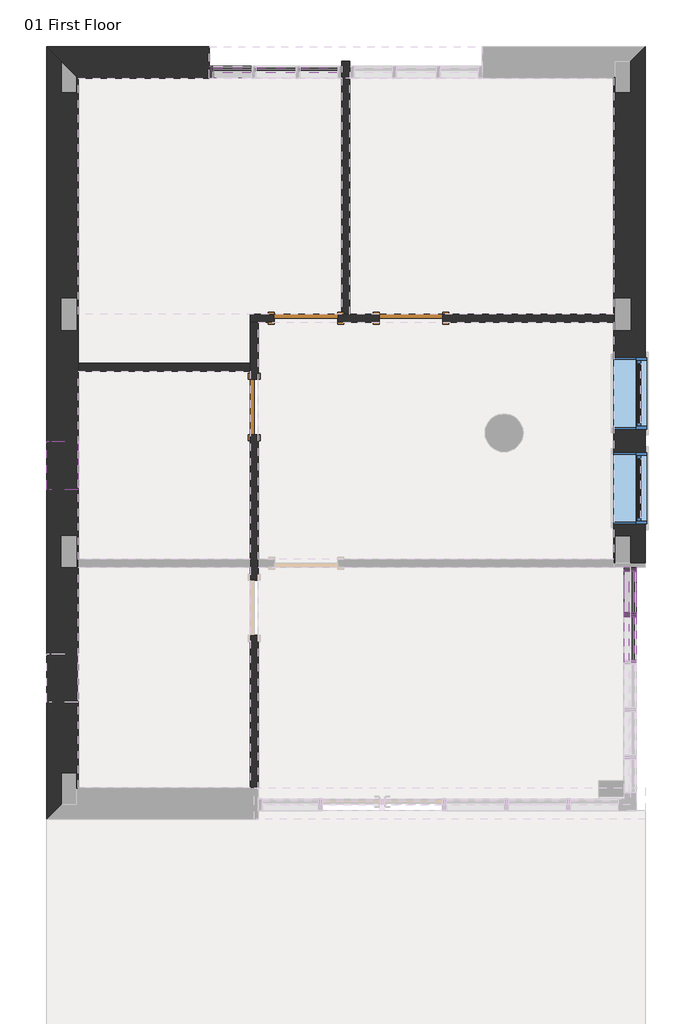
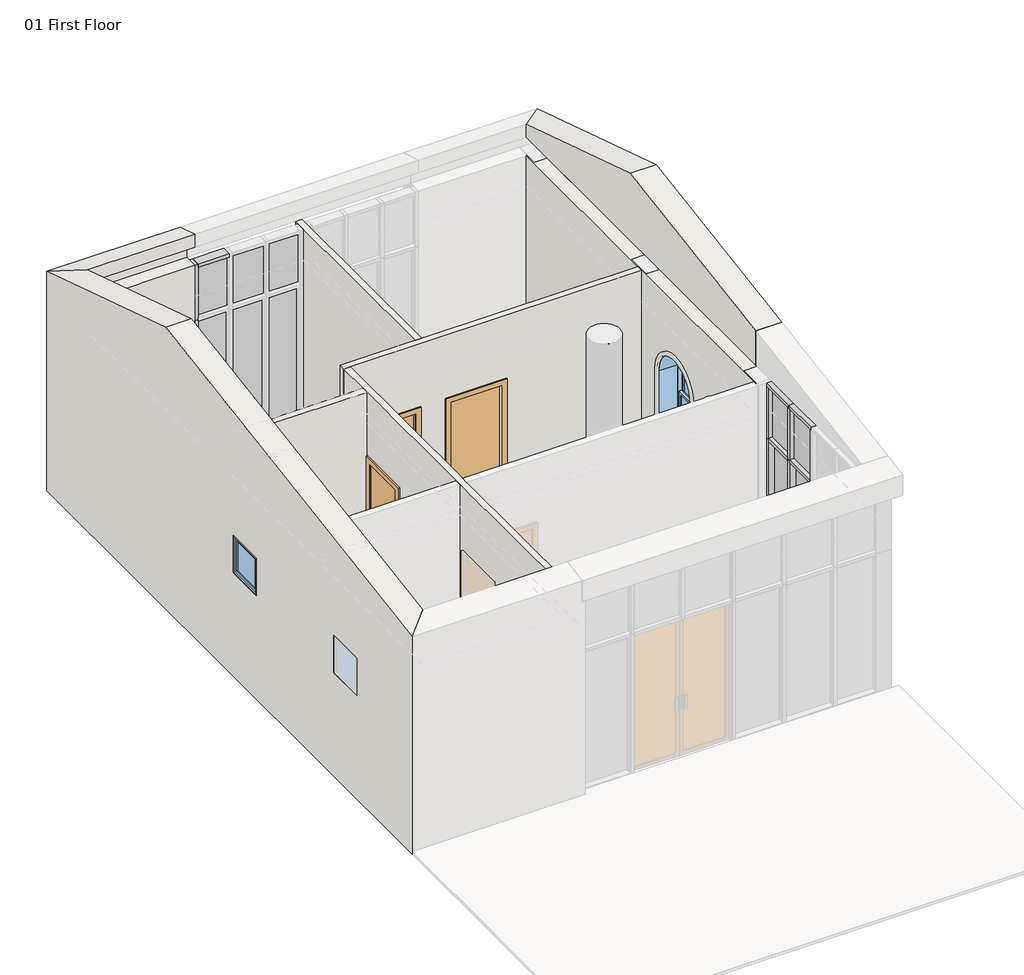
# One storey, part 2 of 3: 13 members, 10 plates, 7 walls, 3 doors, 3 windows.
"""IFC4 building model written with IfcOpenShell, lengths in millimetres."""

from ifc_helpers import new_model, si_unit, frame, origin, place, context, project, spatial, polyline, circle_curve, outline, extrude, faceted_brep, transform, mapped, element, save
from ifc_brep_helpers import plane_surface, revolved_surface, advanced_brep
from components import m_single_flush_0700_x_2100mm_23326b45, m_single_flush_0800_x_2100mm_e1c1bfab, m_single_flush_0800_x_2100mm_5931a049, rectangular_mullion_50_x_150mm_8753ce05, rectangular_mullion_50_x_150mm_f70f74d1, rectangular_mullion_50_x_150mm_f478ca5a, rectangular_mullion_50_x_150mm_324a6438, rectangular_mullion_50_x_150mm_d1e66009, rectangular_mullion_50_x_150mm_35d6a770, rectangular_mullion_50_x_150mm_46eb6b68, rectangular_mullion_50_x_150mm_6f8b8c16, rectangular_mullion_50_x_150mm_754370e9, rectangular_mullion_50_x_150mm_0200b82d, rectangular_mullion_50_x_150mm_8ce7235b, system_panel_glazed_5d80e23d, system_panel_glazed_623b0429, system_panel_glazed_55cc88df, system_panel_glazed_a4bb0f7f, system_panel_solid_e171d4ab, system_panel_solid_d5224606, system_panel_solid_e0b174c6, system_panel_solid_388c8a63, m_fixed_0610_x_0610mm_08517cb4, m_window_double_hung_arch_head_900_x_1800mm_510cd141

model = new_model("IFC4")

# Units and contexts
model_context = context("Model", 3, world=origin())
ifc_project = project(units=[si_unit("LENGTHUNIT", "METRE", prefix="MILLI")], contexts=[model_context])

# Site, building, storey
site = spatial("IfcSite", under=ifc_project)
building = spatial("IfcBuilding", under=site)
storey = spatial("IfcBuildingStorey", under=building, Name="01 First Floor", Elevation=3500.0)

# Doors
placement = place(None, origin())
m_single_flush_0700_x_2100mm_shape = m_single_flush_0700_x_2100mm_23326b45(model_context)
element("IfcDoor", 1, ObjectType="M_Single-Flush : 0700 x 2100mm", at=placement, inside=storey, context=model_context, shape_type="MappedRepresentation", body=[
    mapped(m_single_flush_0700_x_2100mm_shape, transform((-5882.5407999, 1965.8732706, 3500.0), x_axis=(0.0, 1.0, 0.0), y_axis=(-1.0, 0.0, 0.0), z_axis=(0.0, 0.0, 1.0))),
])
m_single_flush_0800_x_2100mm_shape = m_single_flush_0800_x_2100mm_e1c1bfab(model_context)
element("IfcDoor", 2, ObjectType="M_Single-Flush : 0800 x 2100mm", at=placement, inside=storey, context=model_context, shape_type="MappedRepresentation", body=[
    mapped(m_single_flush_0800_x_2100mm_shape, transform((-3898.1036851, 3087.4461437, 3500.0), x_axis=(-0.9999999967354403, -8.080296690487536e-05, 0.0), y_axis=(8.080296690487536e-05, -0.9999999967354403, 0.0), z_axis=(0.0, 0.0, 1.0))),
])
m_single_flush_0800_x_2100mm_2_shape = m_single_flush_0800_x_2100mm_5931a049(model_context)
element("IfcDoor", 3, ObjectType="M_Single-Flush : 0800 x 2100mm", at=placement, inside=storey, context=model_context, shape_type="MappedRepresentation", body=[
    mapped(m_single_flush_0800_x_2100mm_2_shape, transform((-5227.2000094, 3087.3387487, 3500.0), x_axis=(0.9999999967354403, 8.080296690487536e-05, 0.0), y_axis=(-8.080296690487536e-05, 0.9999999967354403, 0.0), z_axis=(0.0, 0.0, 1.0))),
])

# Members
rectangular_mullion_50_x_150mm_shape = rectangular_mullion_50_x_150mm_8753ce05(model_context)
element("IfcMember", 4, ObjectType="Rectangular Mullion : 50 x 150mm", at=placement, inside=storey, context=model_context, shape_type="MappedRepresentation", body=[
    mapped(rectangular_mullion_50_x_150mm_shape, transform((-6447.5407999, 6199.2898352, 5800.0), x_axis=(-1.0, 0.0, 0.0), y_axis=(0.0, -1.0, 0.0), z_axis=(0.0, 0.0, 1.0))),
])
rectangular_mullion_50_x_150mm_2_shape = rectangular_mullion_50_x_150mm_f70f74d1(model_context)
element("IfcMember", 5, ObjectType="Rectangular Mullion : 50 x 150mm", at=placement, inside=storey, context=model_context, shape_type="MappedRepresentation", body=[
    mapped(rectangular_mullion_50_x_150mm_2_shape, transform((-1127.5407999, -662.7101649, 3500.0), x_axis=(0.0, 1.0, 0.0), y_axis=(1.0, 0.0, 0.0), z_axis=(0.0, 0.0, -1.0))),
])
element("IfcMember", 6, ObjectType="Rectangular Mullion : 50 x 150mm", at=placement, inside=storey, context=model_context, shape_type="MappedRepresentation", body=[
    mapped(rectangular_mullion_50_x_150mm_shape, transform((-1127.5407999, -62.7101648, 3500.0), x_axis=(0.0, 1.0, 0.0), y_axis=(1.0, 0.0, 0.0), z_axis=(0.0, 0.0, -1.0))),
])
rectangular_mullion_50_x_150mm_3_shape = rectangular_mullion_50_x_150mm_f478ca5a(model_context)
element("IfcMember", 7, ObjectType="Rectangular Mullion : 50 x 150mm", at=placement, inside=storey, context=model_context, shape_type="MappedRepresentation", body=[
    mapped(rectangular_mullion_50_x_150mm_3_shape, transform((-1127.5407999, -662.7101649, 5800.0), x_axis=(0.0, 1.0, 0.0), y_axis=(1.0, 0.0, 0.0), z_axis=(0.0, 0.0, -1.0))),
])
rectangular_mullion_50_x_150mm_4_shape = rectangular_mullion_50_x_150mm_324a6438(model_context)
element("IfcMember", 8, ObjectType="Rectangular Mullion : 50 x 150mm", at=placement, inside=storey, context=model_context, shape_type="MappedRepresentation", body=[
    mapped(rectangular_mullion_50_x_150mm_4_shape, transform((-1127.5407999, -62.7101648, 5800.0), x_axis=(0.0, 1.0, 0.0), y_axis=(1.0, 0.0, 0.0), z_axis=(0.0, 0.0, -1.0))),
])
rectangular_mullion_50_x_150mm_5_shape = rectangular_mullion_50_x_150mm_d1e66009(model_context)
element("IfcMember", 9, ObjectType="Rectangular Mullion : 50 x 150mm", at=placement, inside=storey, context=model_context, shape_type="MappedRepresentation", body=[
    mapped(rectangular_mullion_50_x_150mm_5_shape, transform((-5914.2074665, 6199.2898352, 6700.0), x_axis=(0.0, 0.0, 1.0), y_axis=(0.0, -1.0, 0.0), z_axis=(1.0, 0.0, 0.0))),
])
element("IfcMember", 10, ObjectType="Rectangular Mullion : 50 x 150mm", at=placement, inside=storey, context=model_context, shape_type="MappedRepresentation", body=[
    mapped(rectangular_mullion_50_x_150mm_5_shape, transform((-6397.5407999, 6199.2898352, 3500.0), x_axis=(0.0, 0.0, -1.0), y_axis=(0.0, -1.0, 0.0), z_axis=(-1.0, 0.0, 0.0))),
])
rectangular_mullion_50_x_150mm_6_shape = rectangular_mullion_50_x_150mm_35d6a770(model_context)
element("IfcMember", 11, ObjectType="Rectangular Mullion : 50 x 150mm", at=placement, inside=storey, context=model_context, shape_type="MappedRepresentation", body=[
    mapped(rectangular_mullion_50_x_150mm_6_shape, transform((-6447.5407999, 6199.2898352, 6700.0), x_axis=(-1.0, 0.0, 0.0), y_axis=(0.0, -1.0, 0.0), z_axis=(0.0, 0.0, 1.0))),
])
rectangular_mullion_50_x_150mm_7_shape = rectangular_mullion_50_x_150mm_46eb6b68(model_context)
element("IfcMember", 12, ObjectType="Rectangular Mullion : 50 x 150mm", at=placement, inside=storey, context=model_context, shape_type="MappedRepresentation", body=[
    mapped(rectangular_mullion_50_x_150mm_7_shape, transform((-1127.5407999, -62.7101648, 6700.0), x_axis=(0.0, 0.0, 1.0), y_axis=(1.0, 0.0, 0.0), z_axis=(0.0, 1.0, 0.0))),
])
rectangular_mullion_50_x_150mm_8_shape = rectangular_mullion_50_x_150mm_6f8b8c16(model_context)
element("IfcMember", 13, ObjectType="Rectangular Mullion : 50 x 150mm", at=placement, inside=storey, context=model_context, shape_type="MappedRepresentation", body=[
    mapped(rectangular_mullion_50_x_150mm_8_shape, transform((-1127.5407999, -662.7101649, 6700.0), x_axis=(0.0, 0.0, 1.0), y_axis=(1.0, 0.0, 0.0), z_axis=(0.0, 1.0, 0.0))),
])
rectangular_mullion_50_x_150mm_9_shape = rectangular_mullion_50_x_150mm_754370e9(model_context)
element("IfcMember", 14, ObjectType="Rectangular Mullion : 50 x 150mm", at=placement, inside=storey, context=model_context, shape_type="MappedRepresentation", body=[
    mapped(rectangular_mullion_50_x_150mm_9_shape, transform((-1127.5407999, -637.7101649, 3500.0), x_axis=(0.0, 0.0, -1.0), y_axis=(1.0, 0.0, 0.0), z_axis=(0.0, -1.0, 0.0))),
])
rectangular_mullion_50_x_150mm_10_shape = rectangular_mullion_50_x_150mm_0200b82d(model_context)
element("IfcMember", 15, ObjectType="Rectangular Mullion : 50 x 150mm", at=placement, inside=storey, context=model_context, shape_type="MappedRepresentation", body=[
    mapped(rectangular_mullion_50_x_150mm_10_shape, transform((-1127.5407999, -687.7101649, 5800.0), x_axis=(0.0, 0.0, 1.0), y_axis=(1.0, 0.0, 0.0), z_axis=(0.0, 1.0, 0.0))),
])
rectangular_mullion_50_x_150mm_11_shape = rectangular_mullion_50_x_150mm_8ce7235b(model_context)
element("IfcMember", 16, ObjectType="Rectangular Mullion : 50 x 150mm", at=placement, inside=storey, context=model_context, shape_type="MappedRepresentation", body=[
    mapped(rectangular_mullion_50_x_150mm_11_shape, transform((-1127.5407999, -112.7101648, 5800.0), x_axis=(0.0, 0.0, 1.0), y_axis=(1.0, 0.0, 0.0), z_axis=(0.0, 1.0, 0.0))),
])

# Plates
system_panel_glazed_shape = system_panel_glazed_5d80e23d(model_context)
element("IfcPlate", 17, ObjectType="System Panel : Glazed", at=placement, inside=storey, context=model_context, shape_type="MappedRepresentation", body=[
    mapped(system_panel_glazed_shape, transform((-6155.8741332, 6199.2898352, 3550.0), x_axis=(1.0, 0.0, 0.0), y_axis=(0.0, 1.0, 0.0), z_axis=(0.0, 0.0, 1.0))),
])
element("IfcPlate", 18, ObjectType="System Panel : Glazed", at=placement, inside=storey, context=model_context, shape_type="MappedRepresentation", body=[
    mapped(system_panel_glazed_shape, transform((-5064.2074667, 6199.2898352, 3550.0), x_axis=(1.0, 0.0, 0.0), y_axis=(0.0, 1.0, 0.0), z_axis=(0.0, 0.0, 1.0))),
])
system_panel_glazed_2_shape = system_panel_glazed_623b0429(model_context)
element("IfcPlate", 19, ObjectType="System Panel : Glazed", at=placement, inside=storey, context=model_context, shape_type="MappedRepresentation", body=[
    mapped(system_panel_glazed_2_shape, transform((-5610.0407999, 6199.2898352, 3550.0), x_axis=(1.0, 0.0, 0.0), y_axis=(0.0, 1.0, 0.0), z_axis=(0.0, 0.0, 1.0))),
])
system_panel_glazed_3_shape = system_panel_glazed_55cc88df(model_context)
element("IfcPlate", 20, ObjectType="System Panel : Glazed", at=placement, inside=storey, context=model_context, shape_type="MappedRepresentation", body=[
    mapped(system_panel_glazed_3_shape, transform((-1127.5407999, -962.7101649, 3550.0), x_axis=(0.0, 1.0, 0.0), y_axis=(-1.0, 0.0, 0.0), z_axis=(0.0, 0.0, 1.0))),
])
system_panel_glazed_4_shape = system_panel_glazed_a4bb0f7f(model_context)
element("IfcPlate", 21, ObjectType="System Panel : Glazed", at=placement, inside=storey, context=model_context, shape_type="MappedRepresentation", body=[
    mapped(system_panel_glazed_4_shape, transform((-1127.5407999, -375.2101649, 3550.0), x_axis=(0.0, 1.0, 0.0), y_axis=(-1.0, 0.0, 0.0), z_axis=(0.0, 0.0, 1.0))),
])
system_panel_solid_shape = system_panel_solid_e171d4ab(model_context)
element("IfcPlate", 22, ObjectType="System Panel : Solid", at=placement, inside=storey, context=model_context, shape_type="MappedRepresentation", body=[
    mapped(system_panel_solid_shape, transform((-6155.8741332, 6199.2898352, 5825.0), x_axis=(1.0, 0.0, 0.0), y_axis=(0.0, 1.0, 0.0), z_axis=(0.0, 0.0, 1.0))),
])
element("IfcPlate", 23, ObjectType="System Panel : Solid", at=placement, inside=storey, context=model_context, shape_type="MappedRepresentation", body=[
    mapped(system_panel_solid_shape, transform((-5064.2074667, 6199.2898352, 5825.0), x_axis=(1.0, 0.0, 0.0), y_axis=(0.0, 1.0, 0.0), z_axis=(0.0, 0.0, 1.0))),
])
system_panel_solid_2_shape = system_panel_solid_d5224606(model_context)
element("IfcPlate", 24, ObjectType="System Panel : Solid", at=placement, inside=storey, context=model_context, shape_type="MappedRepresentation", body=[
    mapped(system_panel_solid_2_shape, transform((-5610.0407999, 6199.2898352, 5825.0), x_axis=(1.0, 0.0, 0.0), y_axis=(0.0, 1.0, 0.0), z_axis=(0.0, 0.0, 1.0))),
])
system_panel_solid_3_shape = system_panel_solid_e0b174c6(model_context)
element("IfcPlate", 25, ObjectType="System Panel : Solid", at=placement, inside=storey, context=model_context, shape_type="MappedRepresentation", body=[
    mapped(system_panel_solid_3_shape, transform((-1127.5407999, -962.7101649, 5825.0), x_axis=(0.0, 1.0, 0.0), y_axis=(-1.0, 0.0, 0.0), z_axis=(0.0, 0.0, 1.0))),
])
system_panel_solid_4_shape = system_panel_solid_388c8a63(model_context)
element("IfcPlate", 26, ObjectType="System Panel : Solid", at=placement, inside=storey, context=model_context, shape_type="MappedRepresentation", body=[
    mapped(system_panel_solid_4_shape, transform((-1127.5407999, -375.2101649, 5825.0), x_axis=(0.0, 1.0, 0.0), y_axis=(-1.0, 0.0, 0.0), z_axis=(0.0, 0.0, 1.0))),
])

# Walls
element("IfcWall", 27, ObjectType="Exterior - Brick on CMU", at=placement, inside=storey, context=model_context, shape_type="Brep", body=[
    faceted_brep([(-8109.5407999, 6124.2898352, 7211.3913043), (-8109.5407999, 3337.2898352, 8100.0), (-8109.5407999, -2849.7101648, 7106.4671533), (-8109.5407999, -2849.7101648, 7000.0), (-8109.5407999, 6124.2898352, 7000.0), (-8109.5407999, -2849.7101648, 3500.0), (-8109.5407999, -62.7101648, 3500.0), (-8109.5407999, 37.2898352, 3500.0), (-8109.5407999, 2415.8732706, 3500.0), (-8109.5407999, 2515.8732706, 3500.0), (-8109.5407999, 6124.2898352, 3500.0), (-8109.5407999, 6124.2898352, 6700.0), (-8109.5407999, 2515.8732706, 6700.0), (-8109.5407999, 2415.8732706, 6700.0), (-8109.5407999, 37.2898352, 6700.0), (-8109.5407999, -62.7101648, 6700.0), (-8109.5407999, -2849.7101648, 6700.0), (-8109.5407999, 921.5815529, 5190.0), (-8109.5407999, 921.5815529, 5800.0), (-8109.5407999, 1531.5815529, 5800.0), (-8109.5407999, 1531.5815529, 5190.0), (-8109.5407999, -1767.7101648, 5190.0), (-8109.5407999, -1767.7101648, 5800.0), (-8109.5407999, -1157.7101648, 5800.0), (-8109.5407999, -1157.7101648, 5190.0), (-8507.5407999, 6522.2898352, 3500.0), (-8507.5407999, -3247.7101648, 3500.0), (-8507.5407999, -3247.7101648, 7042.5547445), (-8507.5407999, 3337.2898352, 8100.0), (-8507.5407999, 6522.2898352, 7084.4927536), (-8507.5407999, 921.5815529, 5800.0), (-8507.5407999, 921.5815529, 5190.0), (-8507.5407999, 1531.5815529, 5190.0), (-8507.5407999, 1531.5815529, 5800.0), (-8507.5407999, -1767.7101648, 5800.0), (-8507.5407999, -1767.7101648, 5190.0), (-8507.5407999, -1157.7101648, 5190.0), (-8507.5407999, -1157.7101648, 5800.0), (-8122.5407999, -2862.7101648, 3500.0), (-8122.5407999, -2662.7101648, 3500.0), (-8322.5407999, -2662.7101648, 3500.0), (-8322.5407999, -3062.7101648, 3500.0), (-8322.5407999, 6337.2898352, 3500.0), (-8322.5407999, 5937.2898352, 3500.0), (-8122.5407999, 5937.2898352, 3500.0), (-8122.5407999, 6137.2898352, 3500.0), (-8322.5407999, 2937.2898352, 3500.0), (-8122.5407999, 2937.2898352, 3500.0), (-8122.5407999, 3337.2898352, 3500.0), (-8322.5407999, 3337.2898352, 3500.0), (-8322.5407999, -62.7101648, 3500.0), (-8122.5407999, -62.7101648, 3500.0), (-8122.5407999, 337.2898352, 3500.0), (-8322.5407999, 337.2898352, 3500.0), (-8322.5407999, -3062.7101648, 7000.0), (-8122.5407999, -2862.7101648, 6700.0), (-8322.5407999, 6337.2898352, 7000.0), (-8122.5407999, 6137.2898352, 6700.0), (-8322.5407999, 2937.2898352, 6700.0), (-8122.5407999, 2937.2898352, 6700.0), (-8322.5407999, -2662.7101648, 6700.0), (-8322.5407999, -62.7101648, 6700.0), (-8322.5407999, 337.2898352, 6700.0), (-8322.5407999, 3337.2898352, 6700.0), (-8322.5407999, 5937.2898352, 6700.0), (-8122.5407999, 3337.2898352, 6700.0), (-8122.5407999, -62.7101648, 6700.0), (-8122.5407999, 337.2898352, 6700.0), (-8122.5407999, -2662.7101648, 6700.0), (-8122.5407999, 5937.2898352, 6700.0)], [[[0, 1, 2, 3, 4]], [[5, 6, 7, 8, 9, 10, 11, 12, 13, 14, 15, 16], [17, 18, 19, 20], [21, 22, 23, 24]], [[25, 26, 27, 28, 29], [30, 31, 32, 33], [34, 35, 36, 37]], [[10, 9, 8, 7, 6, 5, 38, 39, 40, 41, 26, 25, 42, 43, 44, 45], [46, 47, 48, 49], [50, 51, 52, 53]], [[2, 27, 26, 41, 54, 3]], [[38, 5, 16, 55]], [[25, 29, 0, 4, 56, 42]], [[10, 45, 57, 11]], [[47, 46, 58, 59]], [[60, 61, 50, 53, 62, 58, 46, 49, 63, 64, 43, 42, 56, 54, 41, 40]], [[49, 48, 65, 63]], [[54, 56, 4, 3]], [[51, 50, 61, 66]], [[53, 52, 67, 62]], [[40, 39, 68, 60]], [[44, 43, 64, 69]], [[58, 62, 67, 66, 61, 60, 68, 55, 16, 15, 14, 13, 12, 11, 57, 69, 64, 63, 65, 59]], [[27, 2, 1, 28]], [[0, 29, 28, 1]], [[18, 17, 31, 30]], [[19, 18, 30, 33]], [[20, 19, 33, 32]], [[17, 20, 32, 31]], [[22, 21, 35, 34]], [[23, 22, 34, 37]], [[24, 23, 37, 36]], [[21, 24, 36, 35]], [[48, 47, 59, 65]], [[52, 51, 66, 67]], [[39, 38, 55, 68]], [[45, 44, 69, 57]]]),
])
element("IfcWall", 28, ObjectType="Exterior - Brick on CMU", at=placement, inside=storey, context=model_context, shape_type="AdvancedBrep", body=[
    advanced_brep(
    [(-937.5407999, -12.7101648, 3500.0), (-937.5407999, 6522.2898352, 3500.0), (-937.5407999, 6522.2898352, 7084.4927536), (-937.5407999, 3337.2898352, 8100.0), (-937.5407999, -12.7101648, 7562.0437956), (-937.5407999, 2586.7898352, 5350.0), (-937.5407999, 2586.7898352, 4000.0), (-937.5407999, 1686.7898352, 4000.0), (-937.5407999, 1686.7898352, 5350.0), (-937.5407999, 1386.7898352, 5350.0), (-937.5407999, 1386.7898352, 4000.0), (-937.5407999, 486.7898352, 4000.0), (-937.5407999, 486.7898352, 5350.0), (-1335.5407999, 6124.2898352, 3500.0), (-1335.5407999, 3137.6532065, 3500.0), (-1335.5407999, 3037.6532062, 3500.0), (-1335.5407999, 37.2898352, 3500.0), (-1335.5407999, -12.7101648, 3500.0), (-1335.5407999, -12.7101648, 6700.0), (-1335.5407999, 37.2898352, 6700.0), (-1335.5407999, 3037.6532062, 6700.0), (-1335.5407999, 3137.6532065, 6700.0), (-1335.5407999, 6124.2898352, 6700.0), (-1335.5407999, 2586.7898352, 4000.0), (-1335.5407999, 2586.7898352, 5350.0), (-1335.5407999, 1686.7898352, 5350.0), (-1335.5407999, 1686.7898352, 4000.0), (-1335.5407999, 1386.7898352, 4000.0), (-1335.5407999, 1386.7898352, 5350.0), (-1335.5407999, 486.7898352, 5350.0), (-1335.5407999, 486.7898352, 4000.0), (-1335.5407999, -12.7101648, 7562.0437956), (-1335.5407999, 3337.2898352, 8100.0), (-1335.5407999, 6124.2898352, 7211.3913043), (-1335.5407999, 6124.2898352, 7000.0), (-1335.5407999, -12.7101648, 7000.0), (-1122.5407999, -12.7101648, 3500.0), (-1122.5407999, 337.2898352, 3500.0), (-1322.5407999, 337.2898352, 3500.0), (-1322.5407999, -12.7101648, 3500.0), (-1322.5407999, 6137.2898352, 3500.0), (-1322.5407999, 5937.2898352, 3500.0), (-1122.5407999, 5937.2898352, 3500.0), (-1122.5407999, 6337.2898352, 3500.0), (-1122.5407999, 2937.2898352, 3500.0), (-1122.5407999, 3337.2898352, 3500.0), (-1322.5407999, 3337.2898352, 3500.0), (-1322.5407999, 2937.2898352, 3500.0), (-1122.5407999, 5937.2898352, 6700.0), (-1122.5407999, 3337.2898352, 6700.0), (-1122.5407999, 2937.2898352, 6700.0), (-1122.5407999, 337.2898352, 6700.0), (-1122.5407999, -12.7101648, 6700.0), (-1122.5407999, -12.7101648, 7000.0), (-1122.5407999, 6337.2898352, 7000.0), (-1322.5407999, 2937.2898352, 6700.0), (-1322.5407999, 3337.2898352, 6700.0), (-1322.5407999, 337.2898352, 6700.0), (-1322.5407999, -12.7101648, 6700.0), (-1322.5407999, 5937.2898352, 6700.0), (-1322.5407999, 6137.2898352, 6700.0)],
    [
        (0, 1),
        (1, 2),
        (2, 3),
        (3, 4),
        (4, 0),
        (5, 6),
        (6, 7),
        (7, 8),
        (8, 5, circle_curve(frame((-937.5407999, 2136.7898352, 5350.0), z_axis=(-1.0, 0.0, 0.0), x_axis=(0.0, -1.0, 0.0)), 450.0)),
        (9, 10),
        (10, 11),
        (11, 12),
        (12, 9, circle_curve(frame((-937.5407999, 936.7898352, 5350.0), z_axis=(-1.0, 0.0, 0.0), x_axis=(0.0, -1.0, 0.0)), 450.0)),
        (13, 14),
        (14, 15),
        (15, 16),
        (16, 17),
        (17, 18),
        (18, 19),
        (19, 20),
        (20, 21),
        (21, 22),
        (22, 13),
        (23, 24),
        (24, 25, circle_curve(frame((-1335.5407999, 2136.7898352, 5350.0), z_axis=(1.0, 0.0, 0.0), x_axis=(0.0, -1.0, 0.0)), 450.0)),
        (25, 26),
        (26, 23),
        (27, 28),
        (28, 29, circle_curve(frame((-1335.5407999, 936.7898352, 5350.0), z_axis=(1.0, 0.0, 0.0), x_axis=(0.0, -1.0, 0.0)), 450.0)),
        (29, 30),
        (30, 27),
        (31, 32),
        (32, 33),
        (33, 34),
        (34, 35),
        (35, 31),
        (0, 36),
        (36, 37),
        (37, 38),
        (38, 39),
        (39, 17),
        (13, 40),
        (40, 41),
        (41, 42),
        (42, 43),
        (43, 1),
        (44, 45),
        (45, 46),
        (46, 47),
        (47, 44),
        (42, 48),
        (48, 49),
        (49, 45),
        (44, 50),
        (50, 51),
        (51, 37),
        (36, 52),
        (52, 53),
        (53, 54),
        (54, 43),
        (47, 55),
        (55, 50),
        (46, 56),
        (56, 55),
        (49, 56),
        (53, 35),
        (34, 54),
        (38, 57),
        (57, 58),
        (58, 39),
        (51, 57),
        (41, 59),
        (59, 48),
        (40, 60),
        (60, 59),
        (33, 2),
        (22, 60),
        (18, 58),
        (4, 31),
        (3, 32),
        (5, 24),
        (23, 6),
        (26, 7),
        (25, 8),
        (9, 28),
        (27, 10),
        (30, 11),
        (29, 12),
    ],
    [
        plane_surface(frame((-937.5407999, 5.3142246, 3500.0), z_axis=(1.0, 0.0, 0.0), x_axis=(0.0, 1.0, 0.0))),
        plane_surface(frame((-1335.5407999, 5.3142246, 3500.0), z_axis=(-1.0, 0.0, 0.0), x_axis=(0.0, -1.0, 0.0))),
        plane_surface(frame((-937.5407999, -12.7101648, 3500.0), z_axis=(0.0, 0.0, -1.0), x_axis=(-1.0, 0.0, 0.0))),
        plane_surface(frame((-1122.5407999, 2937.2898352, 7000.0), z_axis=(-1.0, 0.0, 0.0), x_axis=(0.0, 0.0, -1.0))),
        plane_surface(frame((-1322.5407999, 2937.2898352, 7000.0), z_axis=(0.0, 1.0, 0.0), x_axis=(0.0, 0.0, -1.0))),
        plane_surface(frame((-1322.5407999, 3337.2898352, 7000.0), z_axis=(1.0, 0.0, 0.0), x_axis=(0.0, 0.0, -1.0))),
        plane_surface(frame((-1122.5407999, 3337.2898352, 7000.0), z_axis=(0.0, -1.0, 0.0), x_axis=(0.0, 0.0, -1.0))),
        plane_surface(frame((-1322.5407999, 3337.2898352, 7000.0), z_axis=(0.0, 0.0, -1.0), x_axis=(-1.0, 0.0, 0.0))),
        plane_surface(frame((-1322.5407999, 337.2898352, 7000.0), z_axis=(1.0, 0.0, 0.0), x_axis=(0.0, 0.0, -1.0))),
        plane_surface(frame((-1122.5407999, 337.2898352, 7000.0), z_axis=(0.0, -1.0, 0.0), x_axis=(0.0, 0.0, -1.0))),
        plane_surface(frame((-1322.5407999, 5937.2898352, 7000.0), z_axis=(0.0, 1.0, 0.0), x_axis=(0.0, 0.0, -1.0))),
        plane_surface(frame((-1322.5407999, 6337.2898352, 7000.0), z_axis=(1.0, 0.0, 0.0), x_axis=(0.0, 0.0, -1.0))),
        plane_surface(frame((-937.5407999, 6522.2898352, 3500.0), z_axis=(-0.7071067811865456, 0.7071067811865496, 0.0), x_axis=(-0.7071067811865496, -0.7071067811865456, 0.0))),
        plane_surface(frame((4877.4592001, 6337.2898352, 6700.0), z_axis=(0.0, 0.0, 1.0), x_axis=(1.0, 0.0, 0.0))),
        plane_surface(frame((-937.5407999, -12.7101648, 7000.0), z_axis=(0.0, -1.0, 0.0), x_axis=(-1.0, 0.0, 0.0))),
        plane_surface(frame((-672.5407999, -3512.7101648, 7000.0), z_axis=(0.0, -0.1585526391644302, 0.9873505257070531), x_axis=(1.0, 0.0, 0.0))),
        plane_surface(frame((-8787.5407999, 6787.2898352, 7000.0), z_axis=(0.0, 0.30377353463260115, 0.9527442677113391), x_axis=(-1.0, 0.0, 0.0))),
        plane_surface(frame((-937.5407999, 2586.7898352, 5350.0), z_axis=(0.0, -1.0, 0.0), x_axis=(-1.0, 0.0, 0.0))),
        plane_surface(frame((-937.5407999, 2586.7898352, 4000.0), z_axis=(0.0, 0.0, 1.0), x_axis=(-1.0, 0.0, 0.0))),
        plane_surface(frame((-937.5407999, 1686.7898352, 4000.0), z_axis=(0.0, 1.0, 0.0), x_axis=(-1.0, 0.0, 0.0))),
        plane_surface(frame((-937.5407999, 1386.7898352, 5350.0), z_axis=(0.0, -1.0, 0.0), x_axis=(-1.0, 0.0, 0.0))),
        plane_surface(frame((-937.5407999, 1386.7898352, 4000.0), z_axis=(0.0, 0.0, 1.0), x_axis=(-1.0, 0.0, 0.0))),
        plane_surface(frame((-937.5407999, 486.7898352, 4000.0), z_axis=(0.0, 1.0, 0.0), x_axis=(-1.0, 0.0, 0.0))),
        revolved_surface(polyline([(-1335.5407999, 486.78983519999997, 5350.0), (-937.5407999, 486.78983519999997, 5350.0)]), (-1335.5407999, 936.7898352, 5350.0), (-1.0, 0.0, 0.0)),
        revolved_surface(polyline([(-1335.5407999, 1686.7898352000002, 5350.0), (-937.5407999, 1686.7898352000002, 5350.0)]), (-1335.5407999, 2136.7898352, 5350.0), (-1.0, 0.0, 0.0)),
    ],
    [
        (0, [[1, 2, 3, 4, 5], [6, 7, 8, 9], [10, 11, 12, 13]]),
        (1, [[14, 15, 16, 17, 18, 19, 20, 21, 22, 23], [24, 25, 26, 27], [28, 29, 30, 31]]),
        (1, [[32, 33, 34, 35, 36]]),
        (2, [[-1, 37, 38, 39, 40, 41, -17, -16, -15, -14, 42, 43, 44, 45, 46], [47, 48, 49, 50]]),
        (3, [[-45, 51, 52, 53, -47, 54, 55, 56, -38, 57, 58, 59, 60]]),
        (4, [[-50, 61, 62, -54]]),
        (5, [[-49, 63, 64, -61]]),
        (6, [[-48, -53, 65, -63]]),
        (7, [[-59, 66, -35, 67]]),
        (8, [[-40, 68, 69, 70]]),
        (9, [[-39, -56, 71, -68]]),
        (10, [[-44, 72, 73, -51]]),
        (11, [[-43, 74, 75, -72]]),
        (12, [[-2, -46, -60, -67, -34, 76]]),
        (12, [[-42, -23, 77, -74]]),
        (13, [[-55, -62, -64, -65, -52, -73, -75, -77, -22, -21, -20, -19, 78, -69, -71]]),
        (14, [[79, -36, -66, -58, -57, -37, -5]]),
        (14, [[-41, -70, -78, -18]]),
        (15, [[-79, -4, 80, -32]]),
        (16, [[-76, -33, -80, -3]]),
        (17, [[-6, 81, -24, 82]]),
        (18, [[-7, -82, -27, 83]]),
        (19, [[-8, -83, -26, 84]]),
        (20, [[-10, 85, -28, 86]]),
        (21, [[-11, -86, -31, 87]]),
        (22, [[-12, -87, -30, 88]]),
        (23, [[-13, -88, -29, -85]]),
        (24, [[-9, -84, -25, -81]]),
    ],
),
])
element("IfcWall", 29, ObjectType="Exterior - Brick on CMU", at=placement, inside=storey, context=model_context, shape_type="Brep", body=[
    faceted_brep([(-8109.5407999, 6124.2898352, 3500.0), (-6447.5407999, 6124.2898352, 3500.0), (-6447.5407999, 6124.2898352, 6700.0), (-8109.5407999, 6124.2898352, 6700.0), (-6447.5407999, 6124.2898352, 7211.3913043), (-8109.5407999, 6124.2898352, 7211.3913043), (-8109.5407999, 6124.2898352, 7000.0), (-6447.5407999, 6124.2898352, 7000.0), (-6447.5407999, 6522.2898352, 3500.0), (-8507.5407999, 6522.2898352, 3500.0), (-8507.5407999, 6522.2898352, 7084.4927536), (-6447.5407999, 6522.2898352, 7084.4927536), (-6447.5407999, 6522.2898352, 6700.0), (-8122.5407999, 6137.2898352, 3500.0), (-8322.5407999, 6337.2898352, 3500.0), (-6447.5407999, 6337.2898352, 7000.0), (-6447.5407999, 6337.2898352, 6700.0), (-8122.5407999, 6137.2898352, 6700.0), (-8322.5407999, 6337.2898352, 6700.0), (-8322.5407999, 6337.2898352, 7000.0)], [[[0, 1, 2, 3]], [[4, 5, 6, 7]], [[8, 9, 10, 11, 12]], [[1, 0, 13, 14, 9, 8]], [[8, 12, 11, 4, 7, 15, 16, 2, 1]], [[10, 9, 14, 13, 0, 3, 17, 18, 19, 6, 5]], [[16, 18, 17, 3, 2]], [[19, 15, 7, 6]], [[18, 16, 15, 19]], [[5, 4, 11, 10]]]),
])
element("IfcWall", 30, ObjectType="Generic - 100mm", at=placement, inside=storey, context=model_context, shape_type="SweptSolid", body=[
    extrude(outline(polyline([(-5932.5407999, 2415.8732706), (-8109.5407999, 2415.8732706), (-8109.5407999, 2515.8732706), (-5932.5407999, 2515.8732706), (-5932.5407999, 2415.8732706)])), frame((0.0, 0.0, 3500.0), z_axis=(0.0, 0.0, 1.0), x_axis=(1.0, 0.0, 0.0)), (0.0, 0.0, 1.0), 3200.0),
])
element("IfcWall", 31, ObjectType="Generic - 100mm", at=placement, inside=storey, context=model_context, shape_type="SweptSolid", body=[
    extrude(outline(polyline([(-4772.5407999, 3137.3754867), (-4772.5407999, 6337.2898352), (-4672.5407999, 6337.2898352), (-4672.5407999, 3137.383567), (-4772.5407999, 3137.3754867)])), frame((0.0, 0.0, 3500.0), z_axis=(0.0, 0.0, 1.0), x_axis=(1.0, 0.0, 0.0)), (0.0, 0.0, 1.0), 3200.0),
])
element("IfcWall", 32, ObjectType="Generic - 100mm", at=placement, inside=storey, context=model_context, shape_type="Brep", body=[
    faceted_brep([(-4298.1077239, 3137.4138223, 5600.0), (-4298.1077239, 3137.4138223, 3500.0), (-4672.5407999, 3137.383567, 3500.0), (-4772.5407999, 3137.3754867, 3500.0), (-4827.2040508, 3137.3710698, 3500.0), (-4827.2040508, 3137.3710698, 5600.0), (-5627.2040482, 3137.3064274, 5600.0), (-5627.2040482, 3137.3064274, 3500.0), (-5932.5407999, 3137.2817553, 3500.0), (-5932.5407999, 3137.2817553, 6700.0), (-4772.5407999, 3137.3754867, 6700.0), (-4672.5407999, 3137.383567, 6700.0), (-1335.5407999, 3137.6532065, 6700.0), (-1335.5407999, 3137.6532065, 3500.0), (-3498.1077265, 3137.4784647, 3500.0), (-3498.1077265, 3137.4784647, 5600.0), (-4827.1959705, 3037.3710701, 3500.0), (-4298.0996436, 3037.4138226, 3500.0), (-4298.0996436, 3037.4138226, 5600.0), (-3498.0996462, 3037.478465, 5600.0), (-3498.0996462, 3037.478465, 3500.0), (-1335.5407999, 3037.6532062, 3500.0), (-1335.5407999, 3037.6532062, 6700.0), (-5832.5407999, 3037.2898352, 6700.0), (-5932.5407999, 3037.2817549, 6700.0), (-5932.5407999, 3037.2817549, 3500.0), (-5832.5407999, 3037.2898352, 3500.0), (-5627.1959679, 3037.3064277, 3500.0), (-5627.1959679, 3037.3064277, 5600.0), (-4827.1959705, 3037.3710701, 5600.0)], [[[0, 1, 2, 3, 4, 5, 6, 7, 8, 9, 10, 11, 12, 13, 14, 15]], [[16, 17, 18, 19, 20, 21, 22, 23, 24, 25, 26, 27, 28, 29]], [[27, 26, 25, 8, 7]], [[14, 13, 21, 20]], [[4, 3, 2, 1, 17, 16]], [[13, 12, 22, 21]], [[9, 8, 25, 24]], [[12, 11, 10, 9, 24, 23, 22]], [[5, 4, 16, 29]], [[6, 5, 29, 28]], [[7, 6, 28, 27]], [[18, 17, 1, 0]], [[19, 18, 0, 15]], [[20, 19, 15, 14]]]),
])
element("IfcWall", 33, ObjectType="Generic - 100mm", at=placement, inside=storey, context=model_context, shape_type="Brep", body=[
    faceted_brep([(-5932.5407999, 1615.8732706, 3500.0), (-5932.5407999, 37.2898352, 3500.0), (-5932.5407999, -62.7101648, 3500.0), (-5932.5407999, -224.1267294, 3500.0), (-5932.5407999, -224.1267294, 5600.0), (-5932.5407999, -924.1267294, 5600.0), (-5932.5407999, -924.1267294, 3500.0), (-5932.5407999, -2849.7101648, 3500.0), (-5932.5407999, -2849.7101648, 6700.0), (-5932.5407999, -62.7101648, 6700.0), (-5932.5407999, 37.2898352, 6700.0), (-5932.5407999, 2415.8732706, 6700.0), (-5932.5407999, 2515.8732706, 6700.0), (-5932.5407999, 3037.2817549, 6700.0), (-5932.5407999, 3037.2817549, 3500.0), (-5932.5407999, 2515.8732706, 3500.0), (-5932.5407999, 2415.8732706, 3500.0), (-5932.5407999, 2315.8732706, 3500.0), (-5932.5407999, 2315.8732706, 5600.0), (-5932.5407999, 1615.8732706, 5600.0), (-5832.5407999, -224.1267294, 5600.0), (-5832.5407999, -224.1267294, 3500.0), (-5832.5407999, -62.7101648, 3500.0), (-5832.5407999, 37.2898352, 3500.0), (-5832.5407999, 1615.8732706, 3500.0), (-5832.5407999, 1615.8732706, 5600.0), (-5832.5407999, 2315.8732706, 5600.0), (-5832.5407999, 2315.8732706, 3500.0), (-5832.5407999, 3037.2898352, 3500.0), (-5832.5407999, 3037.2898352, 6700.0), (-5832.5407999, 37.2898352, 6700.0), (-5832.5407999, -62.7101648, 6700.0), (-5832.5407999, -2849.7101648, 6700.0), (-5832.5407999, -2849.7101648, 3500.0), (-5832.5407999, -924.1267294, 3500.0), (-5832.5407999, -924.1267294, 5600.0)], [[[0, 1, 2, 3, 4, 5, 6, 7, 8, 9, 10, 11, 12, 13, 14, 15, 16, 17, 18, 19]], [[20, 21, 22, 23, 24, 25, 26, 27, 28, 29, 30, 31, 32, 33, 34, 35]], [[28, 27, 17, 16, 15, 14]], [[34, 33, 7, 6]], [[24, 23, 22, 21, 3, 2, 1, 0]], [[14, 13, 29, 28]], [[8, 7, 33, 32]], [[13, 12, 11, 10, 9, 8, 32, 31, 30, 29]], [[18, 17, 27, 26]], [[19, 18, 26, 25]], [[0, 19, 25, 24]], [[4, 3, 21, 20]], [[5, 4, 20, 35]], [[6, 5, 35, 34]]]),
])

# Windows
m_fixed_0610_x_0610mm_shape = m_fixed_0610_x_0610mm_08517cb4(model_context)
element("IfcWindow", 34, ObjectType="M_Fixed : 0610 x 0610mm", at=placement, inside=storey, context=model_context, shape_type="MappedRepresentation", body=[
    mapped(m_fixed_0610_x_0610mm_shape, transform((-8295.5407999, 1226.5815529, 4275.0), x_axis=(0.0, 1.0, 0.0), y_axis=(-1.0, 0.0, 0.0), z_axis=(0.0, 0.0, 1.0))),
])
m_window_double_hung_arch_head_900_x_1800mm_shape = m_window_double_hung_arch_head_900_x_1800mm_510cd141(model_context)
element("IfcWindow", 35, ObjectType="M_Window-Double-Hung-Arch-Head : 900 x 1800mm", at=placement, inside=storey, context=model_context, shape_type="MappedRepresentation", body=[
    mapped(m_window_double_hung_arch_head_900_x_1800mm_shape, transform((-1136.5407999, 2136.7898352, 3085.6), x_axis=(0.0, -1.0, 0.0), y_axis=(1.0, 0.0, 0.0), z_axis=(0.0, 0.0, 1.0))),
])
element("IfcWindow", 36, ObjectType="M_Window-Double-Hung-Arch-Head : 900 x 1800mm", at=placement, inside=storey, context=model_context, shape_type="MappedRepresentation", body=[
    mapped(m_window_double_hung_arch_head_900_x_1800mm_shape, transform((-1136.5407999, 936.7898352, 3085.6), x_axis=(0.0, -1.0, 0.0), y_axis=(1.0, 0.0, 0.0), z_axis=(0.0, 0.0, 1.0))),
])

save(model, "model.ifc")
